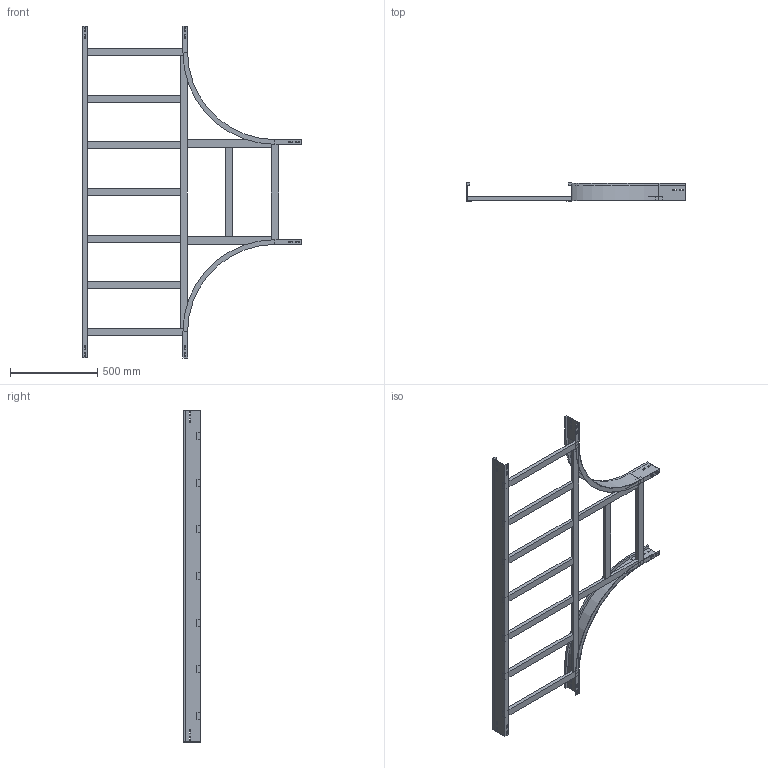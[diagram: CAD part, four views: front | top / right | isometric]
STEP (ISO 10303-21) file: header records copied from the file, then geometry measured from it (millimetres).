
FILE_DESCRIPTION (( 'STEP AP214' ), '1' );
FILE_NAME ('15B5D600.step', '2025-02-21T15:49:09', ( '' ), ( '' ), 'SwSTEP 2.0', 'SolidWorks 2023', '' );
FILE_SCHEMA (( 'AUTOMOTIVE_DESIGN' ));
Length unit declared in the file: millimetre
Products named in the file (8): TRAVERSINO_INTERMEDIO_R500+600; 15B5D600; LONGH.INTERNO 90°_H100_R500; TRAVERSINO_600; TRAVERSINO_VERT_R500; TRAVERSINO_COPPIA_600; LONGH.RETT_H100_R500+600; TRAVERSINO_LONG._R500+600
Assembly tree (15 placements, depth 2):
  15B5D600
    LONGH.INTERNO 90°_H100_R500  x2
    LONGH.RETT_H100_R500+600
    TRAVERSINO_600  x3
    TRAVERSINO_LONG._R500+600
    TRAVERSINO_INTERMEDIO_R500+600  x5
    TRAVERSINO_VERT_R500  x2
    TRAVERSINO_COPPIA_600
Bounding box: 1250 x 100 x 1900 mm (x, y, z)
Volume: 7959672.8 mm3; surface area: 2106439.4 mm2
Topology: 15 solids, 15 shells, 230 faces, 568 edges, 368 vertices
Faces by surface type: plane 222, cylinder 8
Entity records: 4217 total; most frequent: CARTESIAN_POINT 696, ORIENTED_EDGE 664, DIRECTION 636, EDGE_CURVE 332, VECTOR 324, LINE 324, VERTEX_POINT 216, EDGE_LOOP 162
